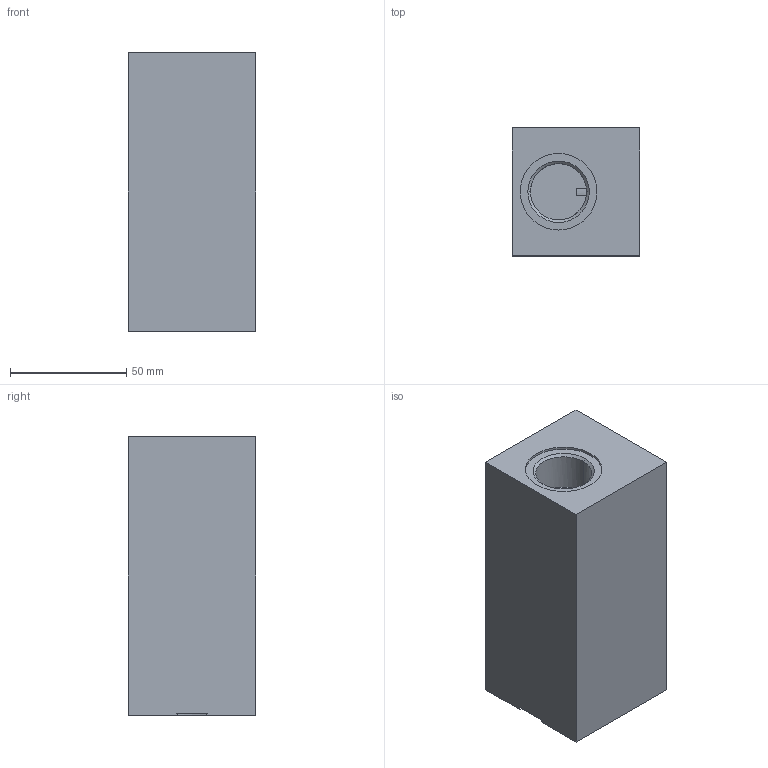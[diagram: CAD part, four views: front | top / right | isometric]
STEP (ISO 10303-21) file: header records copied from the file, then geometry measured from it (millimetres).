
FILE_DESCRIPTION((''),'2;1');
FILE_NAME('1000432357','2023-10-23T',('e.kawala'),(''),'PRO/ENGINEER BY PARAMETRIC TECHNOLOGY CORPORATION, 2015110','PRO/ENGINEER BY PARAMETRIC TECHNOLOGY CORPORATION, 2015110','');
FILE_SCHEMA(('AUTOMOTIVE_DESIGN { 1 0 10303 214 1 1 1 1 }'));
Length unit declared in the file: millimetre
Products named in the file (1): 1000432357
Bounding box: 55 x 55 x 120 mm (x, y, z)
Volume: 332299.1 mm3; surface area: 37045.3 mm2
Topology: 1 solids, 1 shells, 39 faces, 88 edges, 54 vertices
Faces by surface type: cylinder 16, plane 13, cone 10
Entity records: 1938 total; most frequent: DIRECTION 199, CARTESIAN_POINT 184, ORIENTED_EDGE 168, PROPERTY_DEFINITION 97, REPRESENTATION 96, PROPERTY_DEFINITION_REPRESENTATION 96, PRESENTATION_STYLE_ASSIGNMENT 85, STYLED_ITEM 85
